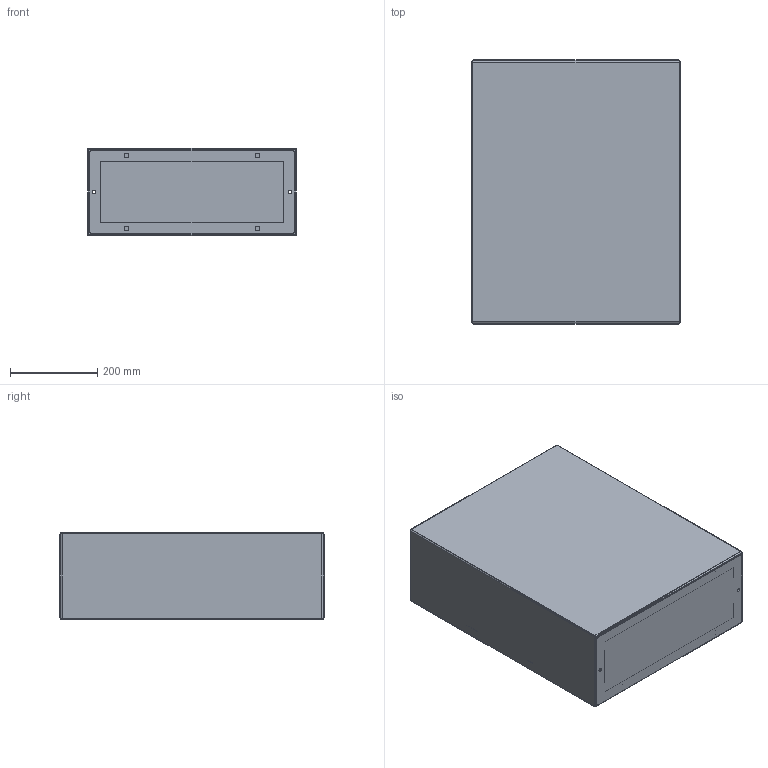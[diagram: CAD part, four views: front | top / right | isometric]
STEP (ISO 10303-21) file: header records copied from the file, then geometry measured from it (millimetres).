
FILE_DESCRIPTION (( 'STEP AP203' ), '1' );
FILE_NAME ('EUZE_0600X0500X0200 STA_ENUX.STEP', '2015-02-20T16:14:28', ( 'Admin' ), ( '' ), 'SwSTEP 2.0', 'SolidWorks 2014', '' );
FILE_SCHEMA (( 'CONFIG_CONTROL_DESIGN' ));
Length unit declared in the file: millimetre
Products named in the file (1): EUZE_0600X0500X0200 STA_ENUX
Bounding box: 478 x 605 x 200 mm (x, y, z)
Volume: 1979180.3 mm3; surface area: 1874204.7 mm2
Topology: 1 solids, 1 shells, 215 faces, 532 edges, 324 vertices
Faces by surface type: plane 127, cylinder 68, sphere 16, cone 4
Entity records: 6289 total; most frequent: CARTESIAN_POINT 1074, DIRECTION 1074, ORIENTED_EDGE 1032, EDGE_CURVE 516, VECTOR 378, LINE 378, AXIS2_PLACEMENT_3D 348, VERTEX_POINT 324
